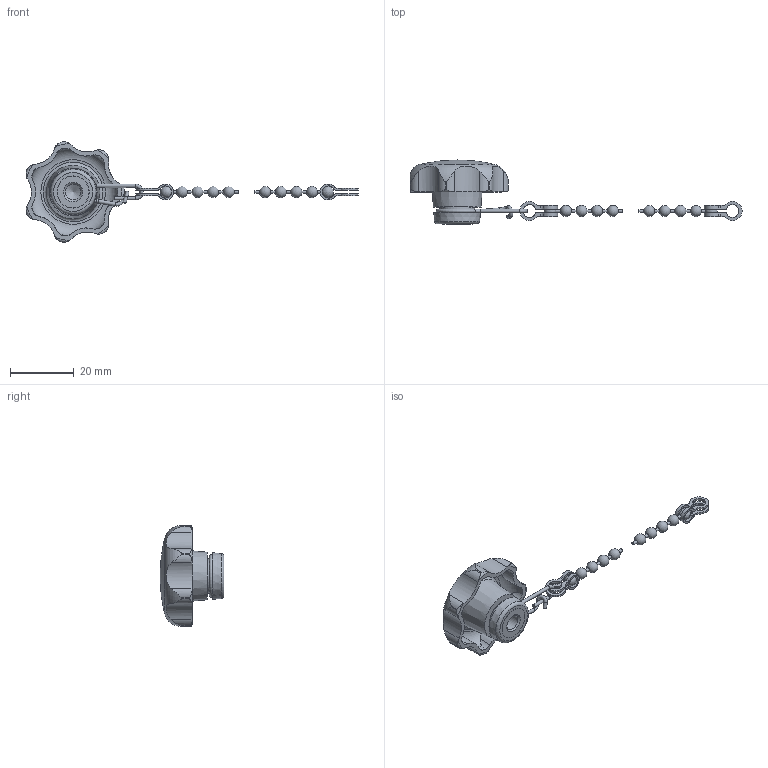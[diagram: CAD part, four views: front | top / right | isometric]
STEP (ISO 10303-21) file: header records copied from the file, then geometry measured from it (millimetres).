
FILE_DESCRIPTION( ( 'STEP AP203' ), '1' );
FILE_NAME( 'C:/Temp/Ganter_Step_05_03_2020/data/2_2/gn_6336_13/gn_6336_13_1/Star knob GN 6336.13-32-M6-K.stp', '2020-03-05T12:10:52', ( 'License CC BY-ND 4.0' ), ( 'CADENAS' ), ' ', 'PARTsolutions', ' ' );
FILE_SCHEMA( ( 'CONFIG_CONTROL_DESIGN' ) );
Length unit declared in the file: millimetre
Products named in the file (3): Star knob GN 6336.13-32-M6-K; _Star knob GN 6336.13-32-M6-K 2; _Star knob GN 111.5-200-14 k1
Assembly tree (2 placements, depth 2):
  Star knob GN 6336.13-32-M6-K
    _Star knob GN 6336.13-32-M6-K 2
    _Star knob GN 111.5-200-14 k1
Bounding box: 103.76 x 20 x 31.36 mm (x, y, z)
Volume: 5738.1 mm3; surface area: 4563.6 mm2
Topology: 2 solids, 2 shells, 173 faces, 497 edges, 321 vertices
Faces by surface type: cylinder 105, plane 27, torus 18, cone 12, sphere 11
Full cylindrical faces by diameter (mm): 0.9 x10, 1.1 x4, 1.11 x1, 4.917 x1, 9.99 x1, 10.05 x1, 10.9 x1
Entity records: 6387 total; most frequent: CARTESIAN_POINT 2072, DIRECTION 881, ORIENTED_EDGE 854, EDGE_CURVE 427, AXIS2_PLACEMENT_3D 381, VERTEX_POINT 306, EDGE_LOOP 227, FACE_OUTER_BOUND 210
